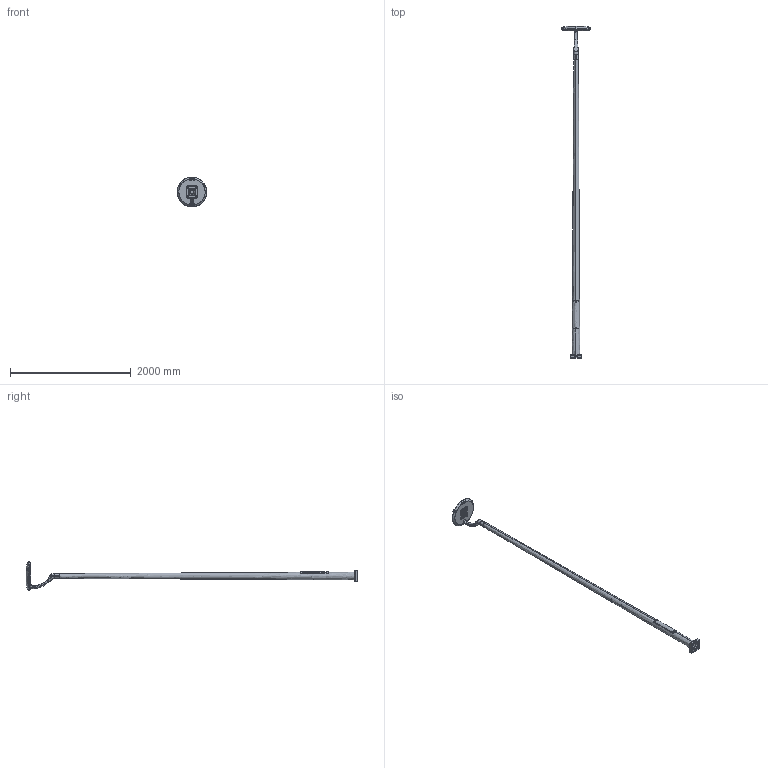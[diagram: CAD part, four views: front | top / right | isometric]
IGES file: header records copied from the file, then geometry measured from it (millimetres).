
Start section: SolidWorks IGES file using analytic representation for surfaces
Global section: file name: F:\F\2. ÀÐÕÈÂ ÄÅÊÎÐÀÒÈÂÍÛÕ ÎÏÎÐ\ÊÀÒÀËÎÃ ÀÊÑÈÔÎÐÌÀ\ORBA\orba-1-5(40C)-(Ê170-130-4õ14)-ö+ïî\ìîäåëè äëÿ ñêà÷èâàíèÿ\orba-1-5(40C)-(Ê170-130-4õ14)-ö+ïî.IGS; native system: SolidWorks 2020; preprocessor: SolidWorks 2020; author: Åêàòåðèíà; date: 210708.173146; units: millimetre
Bounding box: 489.89 x 5489.07 x 490 mm (x, y, z)
Surface area: 4063301 mm2 (no closed solid volume)
Topology: 0 solids, 0 shells, 907 faces, 15614 edges, 15606 vertices
Faces by surface type: revolution 458, bspline 449
